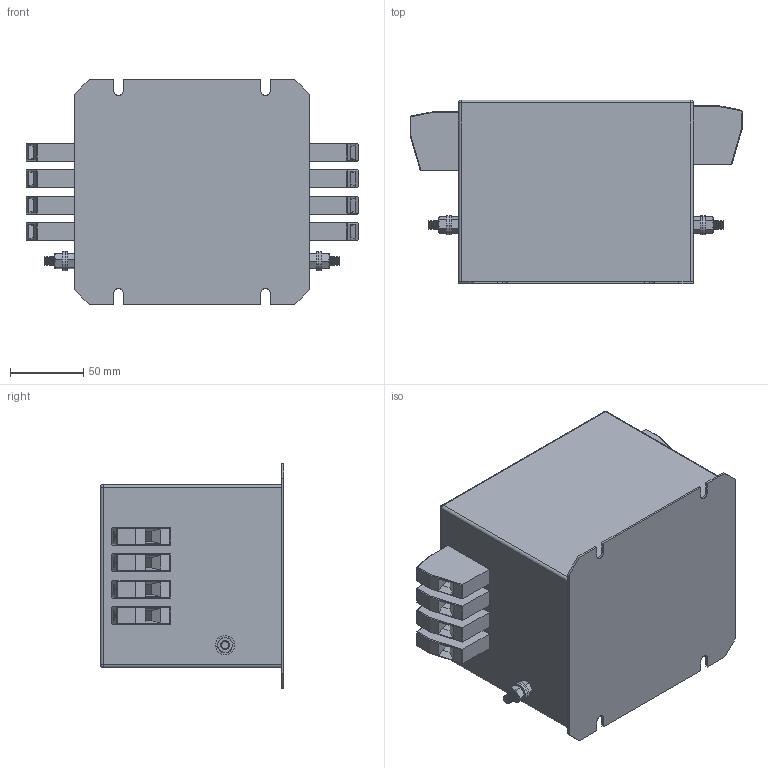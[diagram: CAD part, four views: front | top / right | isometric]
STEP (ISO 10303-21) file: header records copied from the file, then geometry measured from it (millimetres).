
FILE_DESCRIPTION (( 'STEP AP203' ), '1' );
FILE_NAME ('NF-4-64-FTR.STEP', '2016-11-21T17:32:50', ( '' ), ( '' ), 'SwSTEP 2.0', 'SolidWorks 2017', '' );
FILE_SCHEMA (( 'CONFIG_CONTROL_DESIGN' ));
Length unit declared in the file: millimetre
Products named in the file (7): FTR-64; M6x16 Earth post; flat washer narrow_am_B18.22M - Plain washer, 6 mm, narrow; NF-4-64-FTR; hex nut style 1_am_B18.2.4.1M - Hex nut, Style 1,  M6 x 1 --D-N; HDFK-16; hex screw_am_B18.6.7M - M6 x 1.0 x 16 Indented HHMS --16S
Assembly tree (15 placements, depth 3):
  NF-4-64-FTR
    FTR-64
    M6x16 Earth post  x2
      flat washer narrow_am_B18.22M - Plain washer, 6 mm, narrow
      hex nut style 1_am_B18.2.4.1M - Hex nut, Style 1,  M6 x 1 --D-N
      hex screw_am_B18.6.7M - M6 x 1.0 x 16 Indented HHMS --16S
    HDFK-16  x8
Bounding box: 226.01 x 125 x 153 mm (x, y, z)
Volume: 2580341.7 mm3; surface area: 227216.6 mm2
Topology: 18 solids, 18 shells, 944 faces, 2196 edges, 1336 vertices
Faces by surface type: plane 584, cone 200, cylinder 156, sphere 4
Entity records: 9389 total; most frequent: CARTESIAN_POINT 1595, DIRECTION 1504, ORIENTED_EDGE 1376, EDGE_CURVE 688, AXIS2_PLACEMENT_3D 551, VERTEX_POINT 426, LINE 402, VECTOR 402
